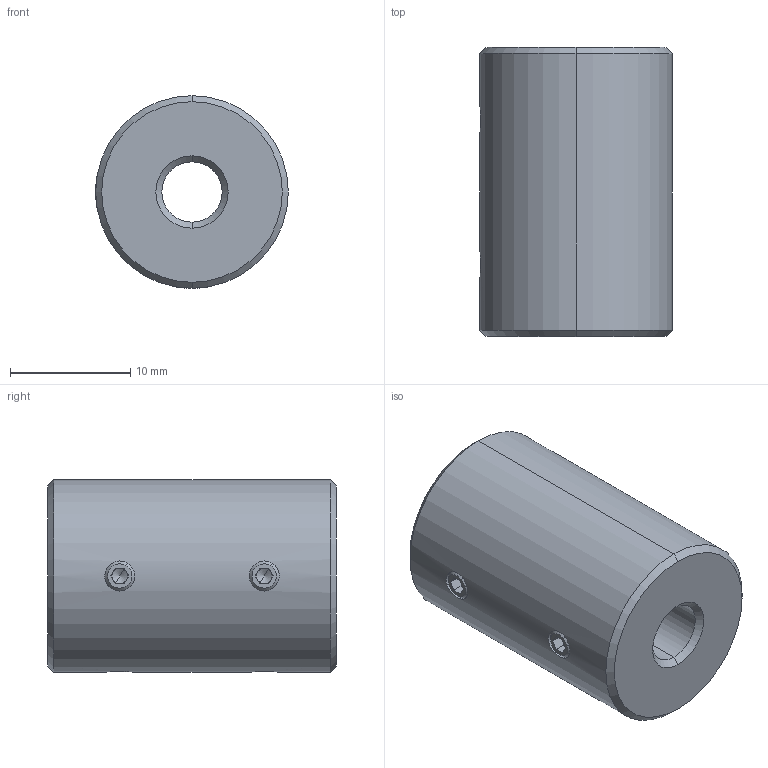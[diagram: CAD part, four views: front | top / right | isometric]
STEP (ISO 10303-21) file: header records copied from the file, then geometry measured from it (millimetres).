
FILE_DESCRIPTION (( 'STEP AP214' ), '1' );
FILE_NAME ('LL-D-D16L24-5-6.35.STEP', '2022-07-23T07:02:57', ( '' ), ( '' ), 'SwSTEP 2.0', 'SolidWorks 2022', '' );
FILE_SCHEMA (( 'AUTOMOTIVE_DESIGN' ));
Length unit declared in the file: millimetre
Products named in the file (1): LL-D-D16L24-5-6.35
Bounding box: 16 x 24 x 16 mm (x, y, z)
Volume: 4157.1 mm3; surface area: 2050 mm2
Topology: 1 solids, 1 shells, 113 faces, 286 edges, 176 vertices
Faces by surface type: plane 59, cone 32, cylinder 22
Entity records: 3650 total; most frequent: CARTESIAN_POINT 900, DIRECTION 582, ORIENTED_EDGE 556, EDGE_CURVE 278, AXIS2_PLACEMENT_3D 214, VERTEX_POINT 176, LINE 154, VECTOR 154
